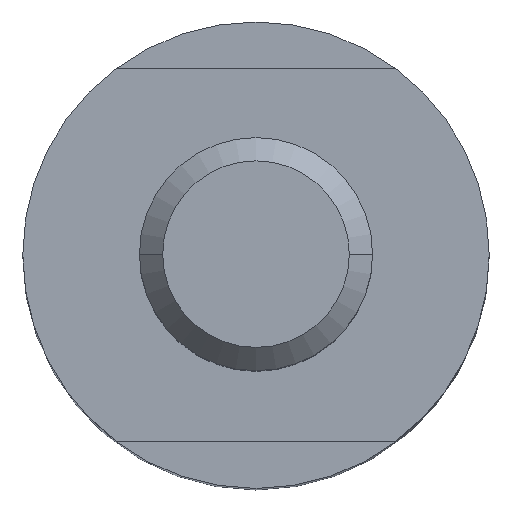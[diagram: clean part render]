
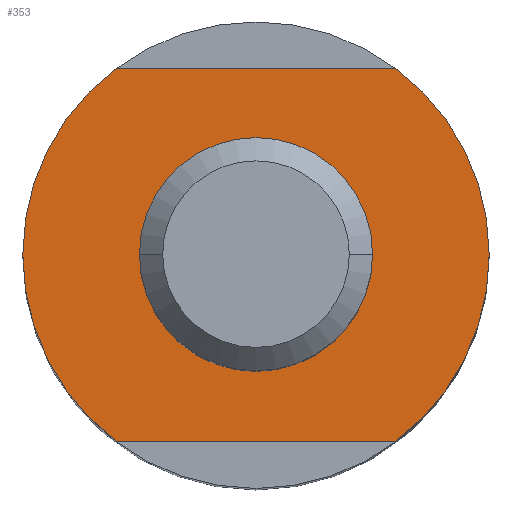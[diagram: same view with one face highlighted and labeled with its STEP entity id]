
A CAD part, top view. The second image highlights one B-rep face of the part: STEP entity #353.
In plain terms, the highlighted planar face has unit normal (0, 0, 1).
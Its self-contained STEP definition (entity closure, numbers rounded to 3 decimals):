
#120=AXIS2_PLACEMENT_3D('Circle Axis2P3D',#118,#119,$) ;
#146=AXIS2_PLACEMENT_3D('Circle Axis2P3D',#144,#145,$) ;
#226=AXIS2_PLACEMENT_3D('Circle Axis2P3D',#224,#225,$) ;
#247=AXIS2_PLACEMENT_3D('Circle Axis2P3D',#245,#246,$) ;
#284=AXIS2_PLACEMENT_3D('Circle Axis2P3D',#282,#283,$) ;
#291=AXIS2_PLACEMENT_3D('Circle Axis2P3D',#289,#290,$) ;
#329=AXIS2_PLACEMENT_3D('Plane Axis2P3D',#326,#327,#328) ;
#113=CARTESIAN_POINT('Vertex',(2.5,0.,25.)) ;
#118=CARTESIAN_POINT('Axis2P3D Location',(0.,0.,25.)) ;
#122=CARTESIAN_POINT('Vertex',(-2.5,0.,25.)) ;
#144=CARTESIAN_POINT('Axis2P3D Location',(0.,0.,25.)) ;
#224=CARTESIAN_POINT('Axis2P3D Location',(0.,0.,25.)) ;
#228=CARTESIAN_POINT('Vertex',(5.,0.,25.)) ;
#230=CARTESIAN_POINT('Vertex',(3.,4.,25.)) ;
#242=CARTESIAN_POINT('Vertex',(-5.,0.,25.)) ;
#245=CARTESIAN_POINT('Axis2P3D Location',(0.,0.,25.)) ;
#249=CARTESIAN_POINT('Vertex',(-3.,4.,25.)) ;
#282=CARTESIAN_POINT('Axis2P3D Location',(0.,0.,25.)) ;
#286=CARTESIAN_POINT('Vertex',(-3.,-4.,25.)) ;
#289=CARTESIAN_POINT('Axis2P3D Location',(0.,0.,25.)) ;
#293=CARTESIAN_POINT('Vertex',(3.,-4.,25.)) ;
#326=CARTESIAN_POINT('Axis2P3D Location',(0.,0.,25.)) ;
#331=CARTESIAN_POINT('Line Origine',(0.,-4.,25.)) ;
#336=CARTESIAN_POINT('Line Origine',(0.,4.,25.)) ;
#119=DIRECTION('Axis2P3D Direction',(0.,0.,1.)) ;
#145=DIRECTION('Axis2P3D Direction',(0.,0.,1.)) ;
#225=DIRECTION('Axis2P3D Direction',(0.,0.,1.)) ;
#246=DIRECTION('Axis2P3D Direction',(0.,0.,1.)) ;
#283=DIRECTION('Axis2P3D Direction',(0.,0.,1.)) ;
#290=DIRECTION('Axis2P3D Direction',(0.,0.,1.)) ;
#327=DIRECTION('Axis2P3D Direction',(0.,0.,1.)) ;
#328=DIRECTION('Axis2P3D XDirection',(1.,0.,0.)) ;
#332=DIRECTION('Vector Direction',(-1.,0.,0.)) ;
#337=DIRECTION('Vector Direction',(-1.,0.,0.)) ;
#333=VECTOR('Line Direction',#332,1.) ;
#338=VECTOR('Line Direction',#337,1.) ;
#342=ORIENTED_EDGE('',*,*,#251,.T.) ;
#343=ORIENTED_EDGE('',*,*,#288,.T.) ;
#344=ORIENTED_EDGE('',*,*,#335,.F.) ;
#345=ORIENTED_EDGE('',*,*,#295,.T.) ;
#346=ORIENTED_EDGE('',*,*,#232,.T.) ;
#347=ORIENTED_EDGE('',*,*,#340,.F.) ;
#350=ORIENTED_EDGE('',*,*,#124,.F.) ;
#351=ORIENTED_EDGE('',*,*,#148,.F.) ;
#352=FACE_BOUND('',#349,.T.) ;
#353=ADVANCED_FACE('\X2\96F64EF651E04F554F53\X0\',(#348,#352),#330,.T.) ;
#121=CIRCLE('generated circle',#120,2.5) ;
#147=CIRCLE('generated circle',#146,2.5) ;
#227=CIRCLE('generated circle',#226,5.) ;
#248=CIRCLE('generated circle',#247,5.) ;
#285=CIRCLE('generated circle',#284,5.) ;
#292=CIRCLE('generated circle',#291,5.) ;
#124=EDGE_CURVE('',#114,#123,#121,.T.) ;
#148=EDGE_CURVE('',#123,#114,#147,.T.) ;
#232=EDGE_CURVE('',#229,#231,#227,.T.) ;
#251=EDGE_CURVE('',#250,#243,#248,.T.) ;
#288=EDGE_CURVE('',#243,#287,#285,.T.) ;
#295=EDGE_CURVE('',#294,#229,#292,.T.) ;
#335=EDGE_CURVE('',#294,#287,#334,.T.) ;
#340=EDGE_CURVE('',#250,#231,#339,.F.) ;
#341=EDGE_LOOP('',(#342,#343,#344,#345,#346,#347)) ;
#349=EDGE_LOOP('',(#350,#351)) ;
#348=FACE_OUTER_BOUND('',#341,.T.) ;
#334=LINE('Line',#331,#333) ;
#339=LINE('Line',#336,#338) ;
#330=PLANE('Plane',#329) ;
#114=VERTEX_POINT('',#113) ;
#123=VERTEX_POINT('',#122) ;
#229=VERTEX_POINT('',#228) ;
#231=VERTEX_POINT('',#230) ;
#243=VERTEX_POINT('',#242) ;
#250=VERTEX_POINT('',#249) ;
#287=VERTEX_POINT('',#286) ;
#294=VERTEX_POINT('',#293) ;
